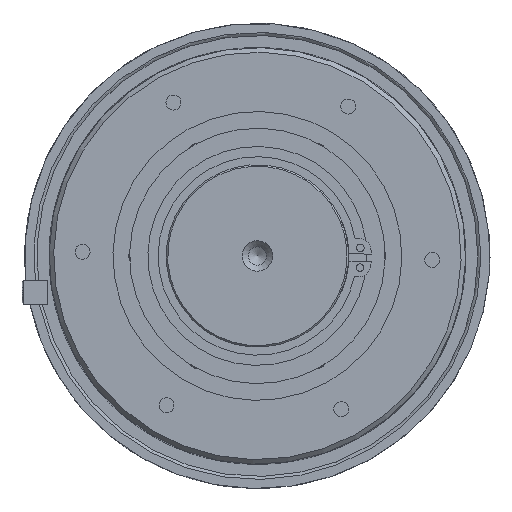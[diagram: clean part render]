
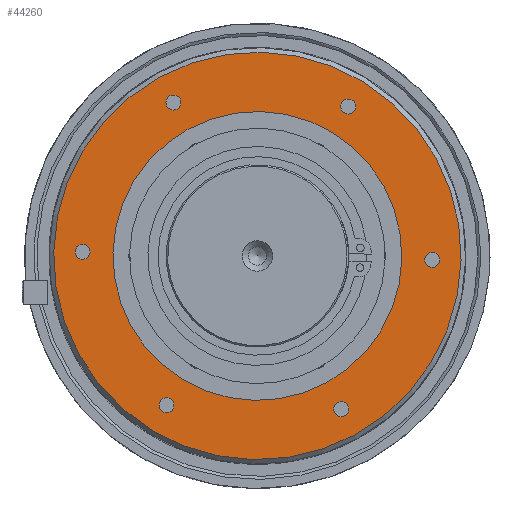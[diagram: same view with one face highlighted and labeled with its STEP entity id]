
A CAD part, left-side view. The second image highlights one B-rep face of the part: STEP entity #44260.
In plain terms, the highlighted planar face has unit normal (-1, 0, 0).
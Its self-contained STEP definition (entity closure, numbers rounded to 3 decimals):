
#8228=PLANE('',#49823);
#9651=FACE_BOUND('',#13618,.T.);
#9652=FACE_BOUND('',#13619,.T.);
#9653=FACE_BOUND('',#13620,.T.);
#9654=FACE_BOUND('',#13621,.T.);
#9655=FACE_BOUND('',#13622,.T.);
#9656=FACE_BOUND('',#13623,.T.);
#9657=FACE_BOUND('',#13624,.T.);
#11020=FACE_OUTER_BOUND('',#13617,.T.);
#13617=EDGE_LOOP('',(#36976));
#13618=EDGE_LOOP('',(#36977));
#13619=EDGE_LOOP('',(#36978));
#13620=EDGE_LOOP('',(#36979));
#13621=EDGE_LOOP('',(#36980));
#13622=EDGE_LOOP('',(#36981));
#13623=EDGE_LOOP('',(#36982));
#13624=EDGE_LOOP('',(#36983));
#15861=CIRCLE('',#49020,67.);
#16063=CIRCLE('',#49824,47.5);
#16064=CIRCLE('',#49825,2.459);
#16065=CIRCLE('',#49826,2.459);
#16066=CIRCLE('',#49827,2.459);
#16067=CIRCLE('',#49828,2.459);
#16068=CIRCLE('',#49829,2.459);
#16069=CIRCLE('',#49830,2.459);
#19319=VERTEX_POINT('',#90402);
#20121=VERTEX_POINT('',#92008);
#20122=VERTEX_POINT('',#92010);
#20123=VERTEX_POINT('',#92012);
#20124=VERTEX_POINT('',#92014);
#20125=VERTEX_POINT('',#92016);
#20126=VERTEX_POINT('',#92018);
#20127=VERTEX_POINT('',#92020);
#25306=EDGE_CURVE('',#19319,#19319,#15861,.T.);
#26108=EDGE_CURVE('',#20121,#20121,#16063,.T.);
#26109=EDGE_CURVE('',#20122,#20122,#16064,.T.);
#26110=EDGE_CURVE('',#20123,#20123,#16065,.T.);
#26111=EDGE_CURVE('',#20124,#20124,#16066,.T.);
#26112=EDGE_CURVE('',#20125,#20125,#16067,.T.);
#26113=EDGE_CURVE('',#20126,#20126,#16068,.T.);
#26114=EDGE_CURVE('',#20127,#20127,#16069,.T.);
#36976=ORIENTED_EDGE('',*,*,#25306,.F.);
#36977=ORIENTED_EDGE('',*,*,#26108,.T.);
#36978=ORIENTED_EDGE('',*,*,#26109,.T.);
#36979=ORIENTED_EDGE('',*,*,#26110,.T.);
#36980=ORIENTED_EDGE('',*,*,#26111,.T.);
#36981=ORIENTED_EDGE('',*,*,#26112,.T.);
#36982=ORIENTED_EDGE('',*,*,#26113,.T.);
#36983=ORIENTED_EDGE('',*,*,#26114,.T.);
#44260=ADVANCED_FACE('',(#11020,#9651,#9652,#9653,#9654,#9655,#9656,#9657),
#8228,.T.);
#49020=AXIS2_PLACEMENT_3D('',#90403,#60600,#60601);
#49823=AXIS2_PLACEMENT_3D('',#92007,#62206,#62207);
#49824=AXIS2_PLACEMENT_3D('',#92009,#62208,#62209);
#49825=AXIS2_PLACEMENT_3D('',#92011,#62210,#62211);
#49826=AXIS2_PLACEMENT_3D('',#92013,#62212,#62213);
#49827=AXIS2_PLACEMENT_3D('',#92015,#62214,#62215);
#49828=AXIS2_PLACEMENT_3D('',#92017,#62216,#62217);
#49829=AXIS2_PLACEMENT_3D('',#92019,#62218,#62219);
#49830=AXIS2_PLACEMENT_3D('',#92021,#62220,#62221);
#60600=DIRECTION('center_axis',(1.,0.,0.));
#60601=DIRECTION('ref_axis',(0.,-1.,-0.023));
#62206=DIRECTION('center_axis',(-1.,0.,0.));
#62207=DIRECTION('ref_axis',(0.,-0.023,1.));
#62208=DIRECTION('center_axis',(1.,0.,0.));
#62209=DIRECTION('ref_axis',(0.,1.,0.023));
#62210=DIRECTION('center_axis',(1.,0.,0.));
#62211=DIRECTION('ref_axis',(0.,-0.023,
1.));
#62212=DIRECTION('center_axis',(1.,0.,0.));
#62213=DIRECTION('ref_axis',(0.,-0.023,
1.));
#62214=DIRECTION('center_axis',(1.,0.,0.));
#62215=DIRECTION('ref_axis',(0.,-0.023,
1.));
#62216=DIRECTION('center_axis',(1.,0.,0.));
#62217=DIRECTION('ref_axis',(0.,-0.023,
1.));
#62218=DIRECTION('center_axis',(1.,0.,0.));
#62219=DIRECTION('ref_axis',(0.,-0.023,
1.));
#62220=DIRECTION('center_axis',(1.,0.,0.));
#62221=DIRECTION('ref_axis',(0.,-0.023,
1.));
#90402=CARTESIAN_POINT('',(-26.,66.982,1.538));
#90403=CARTESIAN_POINT('Origin',(-26.,0.,0.));
#92007=CARTESIAN_POINT('Origin',(-26.,57.985,1.332));
#92008=CARTESIAN_POINT('',(-26.,47.487,1.091));
#92009=CARTESIAN_POINT('Origin',(-26.,0.,0.));
#92010=CARTESIAN_POINT('',(-26.,57.428,3.778));
#92011=CARTESIAN_POINT('Origin',(-26.,57.485,1.32));
#92012=CARTESIAN_POINT('',(-26.,29.829,-46.665));
#92013=CARTESIAN_POINT('Origin',(-26.,29.886,-49.123));
#92014=CARTESIAN_POINT('',(-26.,-27.656,-47.986));
#92015=CARTESIAN_POINT('Origin',(-26.,-27.599,-50.443));
#92016=CARTESIAN_POINT('',(-26.,-57.541,1.138));
#92017=CARTESIAN_POINT('Origin',(-26.,-57.485,-1.32));
#92018=CARTESIAN_POINT('',(-26.,-29.942,51.581));
#92019=CARTESIAN_POINT('Origin',(-26.,-29.886,49.123));
#92020=CARTESIAN_POINT('',(-26.,27.543,52.901));
#92021=CARTESIAN_POINT('Origin',(-26.,27.599,50.443));
